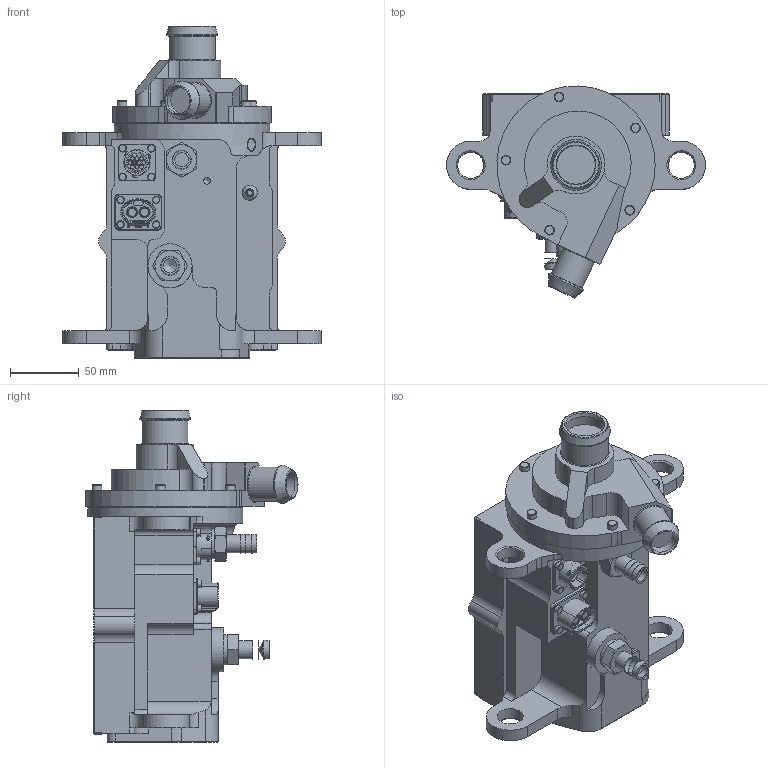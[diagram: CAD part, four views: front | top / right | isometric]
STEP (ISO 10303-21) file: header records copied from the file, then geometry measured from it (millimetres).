
FILE_DESCRIPTION(/* description */ (''),/* implementation_level */ '2;1');
FILE_NAME(/* name */ '',/* time_stamp */ '2025-01-21T16:00:26+01:00',/* author */ (''),/* organization */ (''),/* preprocessor_version */ 'ST-DEVELOPER v20',/* originating_system */ 'Autodesk Inventor 2024',/* authorisation */ '');
FILE_SCHEMA (('AUTOMOTIVE_DESIGN { 1 0 10303 214 3 1 1 }'));
Length unit declared in the file: millimetre
Products named in the file (1): 037102
Bounding box: 188 x 154.03 x 241.16 mm (x, y, z)
Volume: 1829593.3 mm3; surface area: 140519.5 mm2
Topology: 1 solids, 1 shells, 840 faces, 2140 edges, 1379 vertices
Faces by surface type: plane 469, cylinder 257, cone 59, torus 36, sphere 12, bspline 7
Full cylindrical faces by diameter (mm): 2.3 x1, 2.7 x10, 3.9 x1, 4.6 x1, 4.917 x1, 5.5 x8, 6 x2, 6.25 x1, 6.26 x1, 7 x5, 7.24 x1, 8 x2, 8.3 x1, 10 x2, 13 x2, 13.9 x1, 19 x6, 21.9 x2, 25 x1, 28 x1, 32 x1, 34 x1, 110 x1, 113 x1
Entity records: 28253 total; most frequent: CARTESIAN_POINT 6453, DIRECTION 4460, ORIENTED_EDGE 4272, EDGE_CURVE 2136, AXIS2_PLACEMENT_3D 1576, VERTEX_POINT 1379, LINE 1308, VECTOR 1308
